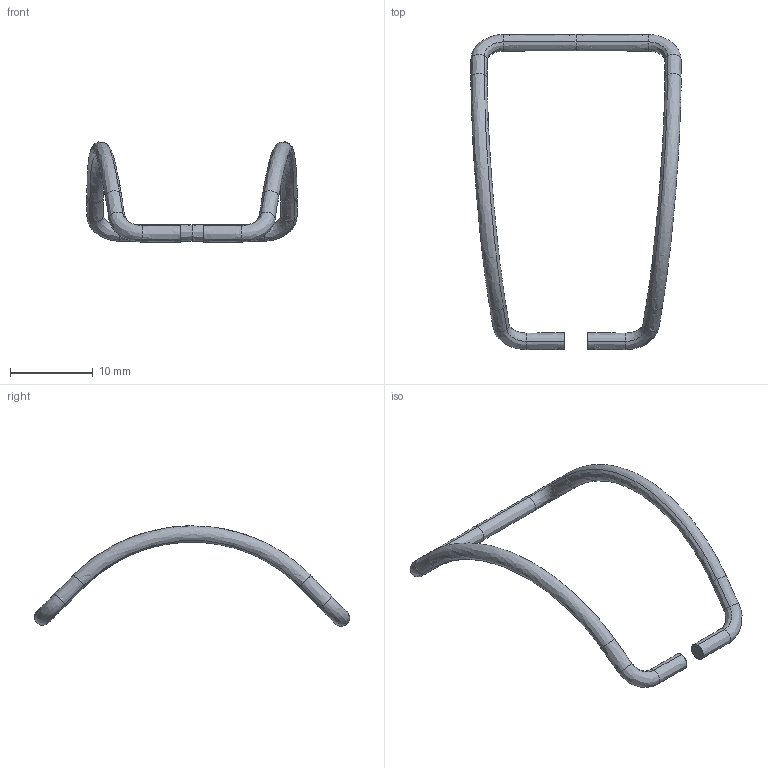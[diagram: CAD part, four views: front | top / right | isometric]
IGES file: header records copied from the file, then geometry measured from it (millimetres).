
Start section: SolidWorks IGES FILE using analytic representation for surfaces
Global section: file name: C:\WINNT\Profiles\cbrechard\Bureau\GE 571\05.200.00.IGS; native system: SolidWorks 2001Plus by SolidWorks Corporation; preprocessor: Version 5.3; author: CBRECHARD; date: 050125.141456; units: millimetre
Bounding box: 25.43 x 38.07 x 12.11 mm (x, y, z)
Surface area: 756.6 mm2 (no closed solid volume)
Topology: 0 solids, 0 shells, 30 faces, 176 edges, 176 vertices
Faces by surface type: bspline 30
